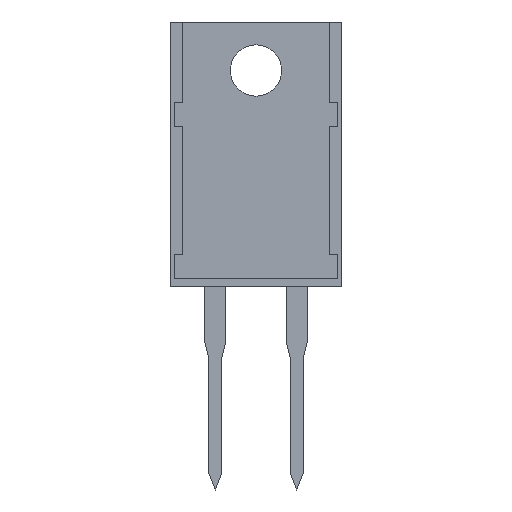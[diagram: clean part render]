
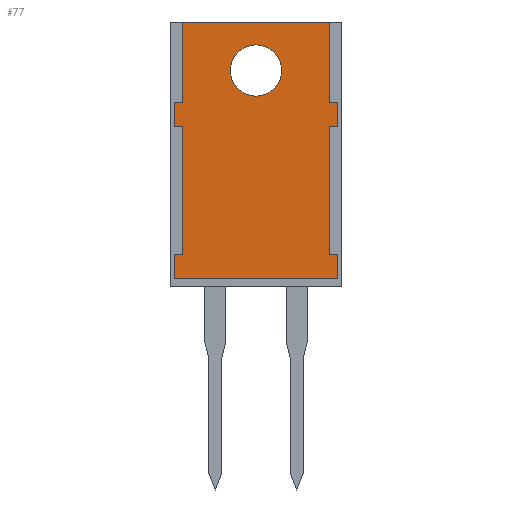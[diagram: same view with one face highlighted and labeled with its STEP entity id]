
A CAD part, front view. The second image highlights one B-rep face of the part: STEP entity #77.
In plain terms, the highlighted planar face has unit normal (0, -1, 0).
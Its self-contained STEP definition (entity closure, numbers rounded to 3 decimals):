
#77=ADVANCED_FACE('',(#662,#664),#666,.T.);
#662=FACE_BOUND('',#663,.T.);
#663=EDGE_LOOP('',(#1135,#1136,#1137,#1138,#1139,#1140,#1141,#1142,#1143,#1144,#1145,
#1146,#1147,#1148,#1149,#1150));
#664=FACE_BOUND('',#665,.T.);
#665=EDGE_LOOP('',(#1151));
#666=PLANE('',#667);
#667=AXIS2_PLACEMENT_3D('',#668,#669,#670);
#668=CARTESIAN_POINT('',(0.,-2.3,0.));
#669=DIRECTION('',(0.,-1.,0.));
#670=DIRECTION('',(1.,0.,0.));
#1135=ORIENTED_EDGE('',*,*,#1487,.T.);
#1136=ORIENTED_EDGE('',*,*,#1488,.T.);
#1137=ORIENTED_EDGE('',*,*,#1489,.T.);
#1138=ORIENTED_EDGE('',*,*,#1490,.T.);
#1139=ORIENTED_EDGE('',*,*,#1491,.T.);
#1140=ORIENTED_EDGE('',*,*,#1492,.T.);
#1141=ORIENTED_EDGE('',*,*,#1493,.T.);
#1142=ORIENTED_EDGE('',*,*,#1494,.T.);
#1143=ORIENTED_EDGE('',*,*,#1495,.T.);
#1144=ORIENTED_EDGE('',*,*,#1496,.T.);
#1145=ORIENTED_EDGE('',*,*,#1497,.T.);
#1146=ORIENTED_EDGE('',*,*,#1498,.T.);
#1147=ORIENTED_EDGE('',*,*,#1499,.T.);
#1148=ORIENTED_EDGE('',*,*,#1500,.T.);
#1149=ORIENTED_EDGE('',*,*,#1501,.T.);
#1150=ORIENTED_EDGE('',*,*,#1502,.T.);
#1151=ORIENTED_EDGE('',*,*,#1503,.T.);
#1487=EDGE_CURVE('',#1680,#1681,#1682,.T.);
#1488=EDGE_CURVE('',#1681,#1683,#1684,.T.);
#1489=EDGE_CURVE('',#1683,#1685,#1686,.T.);
#1490=EDGE_CURVE('',#1685,#1687,#1688,.T.);
#1491=EDGE_CURVE('',#1687,#1689,#1690,.T.);
#1492=EDGE_CURVE('',#1689,#1691,#1692,.T.);
#1493=EDGE_CURVE('',#1691,#1693,#1694,.T.);
#1494=EDGE_CURVE('',#1693,#1695,#1696,.T.);
#1495=EDGE_CURVE('',#1695,#1697,#1698,.T.);
#1496=EDGE_CURVE('',#1697,#1699,#1700,.T.);
#1497=EDGE_CURVE('',#1699,#1701,#1702,.T.);
#1498=EDGE_CURVE('',#1701,#1703,#1704,.T.);
#1499=EDGE_CURVE('',#1703,#1705,#1706,.T.);
#1500=EDGE_CURVE('',#1705,#1707,#1708,.T.);
#1501=EDGE_CURVE('',#1707,#1709,#1710,.T.);
#1502=EDGE_CURVE('',#1709,#1680,#1711,.T.);
#1503=EDGE_CURVE('',#1712,#1712,#1713,.F.);
#1680=VERTEX_POINT('',#2009);
#1681=VERTEX_POINT('',#2010);
#1682=LINE('',#2011,#2012);
#1683=VERTEX_POINT('',#2014);
#1684=LINE('',#2015,#2016);
#1685=VERTEX_POINT('',#2018);
#1686=LINE('',#2019,#2020);
#1687=VERTEX_POINT('',#2022);
#1688=LINE('',#2023,#2024);
#1689=VERTEX_POINT('',#2026);
#1690=LINE('',#2027,#2028);
#1691=VERTEX_POINT('',#2030);
#1692=LINE('',#2031,#2032);
#1693=VERTEX_POINT('',#2034);
#1694=LINE('',#2035,#2036);
#1695=VERTEX_POINT('',#2038);
#1696=LINE('',#2039,#2040);
#1697=VERTEX_POINT('',#2042);
#1698=LINE('',#2043,#2044);
#1699=VERTEX_POINT('',#2046);
#1700=LINE('',#2047,#2048);
#1701=VERTEX_POINT('',#2050);
#1702=LINE('',#2051,#2052);
#1703=VERTEX_POINT('',#2054);
#1704=LINE('',#2055,#2056);
#1705=VERTEX_POINT('',#2058);
#1706=LINE('',#2059,#2060);
#1707=VERTEX_POINT('',#2062);
#1708=LINE('',#2063,#2064);
#1709=VERTEX_POINT('',#2066);
#1710=LINE('',#2067,#2068);
#1711=LINE('',#2070,#2071);
#1712=VERTEX_POINT('',#2073);
#1713=CIRCLE('',#2074,1.6);
#2009=CARTESIAN_POINT('',(-5.1,-2.3,0.53));
#2010=CARTESIAN_POINT('',(5.1,-2.3,0.53));
#2011=CARTESIAN_POINT('',(-5.1,-2.3,0.53));
#2012=VECTOR('',#2013,1.);
#2013=DIRECTION('',(1.,0.,0.));
#2014=CARTESIAN_POINT('',(5.1,-2.3,2.03));
#2015=CARTESIAN_POINT('',(5.1,-2.3,0.53));
#2016=VECTOR('',#2017,1.);
#2017=DIRECTION('',(0.,0.,1.));
#2018=CARTESIAN_POINT('',(4.6,-2.3,2.03));
#2019=CARTESIAN_POINT('',(5.1,-2.3,2.03));
#2020=VECTOR('',#2021,1.);
#2021=DIRECTION('',(-1.,0.,0.));
#2022=CARTESIAN_POINT('',(4.6,-2.3,10.03));
#2023=CARTESIAN_POINT('',(4.6,-2.3,2.03));
#2024=VECTOR('',#2025,1.);
#2025=DIRECTION('',(0.,0.,1.));
#2026=CARTESIAN_POINT('',(5.1,-2.3,10.03));
#2027=CARTESIAN_POINT('',(4.6,-2.3,10.03));
#2028=VECTOR('',#2029,1.);
#2029=DIRECTION('',(1.,0.,0.));
#2030=CARTESIAN_POINT('',(5.1,-2.3,11.53));
#2031=CARTESIAN_POINT('',(5.1,-2.3,10.03));
#2032=VECTOR('',#2033,1.);
#2033=DIRECTION('',(0.,0.,1.));
#2034=CARTESIAN_POINT('',(4.6,-2.3,11.53));
#2035=CARTESIAN_POINT('',(5.1,-2.3,11.53));
#2036=VECTOR('',#2037,1.);
#2037=DIRECTION('',(-1.,0.,0.));
#2038=CARTESIAN_POINT('',(4.6,-2.3,16.53));
#2039=CARTESIAN_POINT('',(4.6,-2.3,11.53));
#2040=VECTOR('',#2041,1.);
#2041=DIRECTION('',(0.,0.,1.));
#2042=CARTESIAN_POINT('',(-4.6,-2.3,16.53));
#2043=CARTESIAN_POINT('',(4.6,-2.3,16.53));
#2044=VECTOR('',#2045,1.);
#2045=DIRECTION('',(-1.,0.,0.));
#2046=CARTESIAN_POINT('',(-4.6,-2.3,11.53));
#2047=CARTESIAN_POINT('',(-4.6,-2.3,16.53));
#2048=VECTOR('',#2049,1.);
#2049=DIRECTION('',(0.,0.,-1.));
#2050=CARTESIAN_POINT('',(-5.1,-2.3,11.53));
#2051=CARTESIAN_POINT('',(-4.6,-2.3,11.53));
#2052=VECTOR('',#2053,1.);
#2053=DIRECTION('',(-1.,0.,0.));
#2054=CARTESIAN_POINT('',(-5.1,-2.3,10.03));
#2055=CARTESIAN_POINT('',(-5.1,-2.3,11.53));
#2056=VECTOR('',#2057,1.);
#2057=DIRECTION('',(0.,0.,-1.));
#2058=CARTESIAN_POINT('',(-4.6,-2.3,10.03));
#2059=CARTESIAN_POINT('',(-5.1,-2.3,10.03));
#2060=VECTOR('',#2061,1.);
#2061=DIRECTION('',(1.,0.,0.));
#2062=CARTESIAN_POINT('',(-4.6,-2.3,2.03));
#2063=CARTESIAN_POINT('',(-4.6,-2.3,10.03));
#2064=VECTOR('',#2065,1.);
#2065=DIRECTION('',(0.,0.,-1.));
#2066=CARTESIAN_POINT('',(-5.1,-2.3,2.03));
#2067=CARTESIAN_POINT('',(-4.6,-2.3,2.03));
#2068=VECTOR('',#2069,1.);
#2069=DIRECTION('',(-1.,0.,0.));
#2070=CARTESIAN_POINT('',(-5.1,-2.3,2.03));
#2071=VECTOR('',#2072,1.);
#2072=DIRECTION('',(0.,0.,-1.));
#2073=CARTESIAN_POINT('',(1.6,-2.3,13.5));
#2074=AXIS2_PLACEMENT_3D('',#2075,#2076,#2077);
#2075=CARTESIAN_POINT('',(0.,-2.3,13.5));
#2076=DIRECTION('',(0.,-1.,0.));
#2077=DIRECTION('',(1.,0.,0.));
